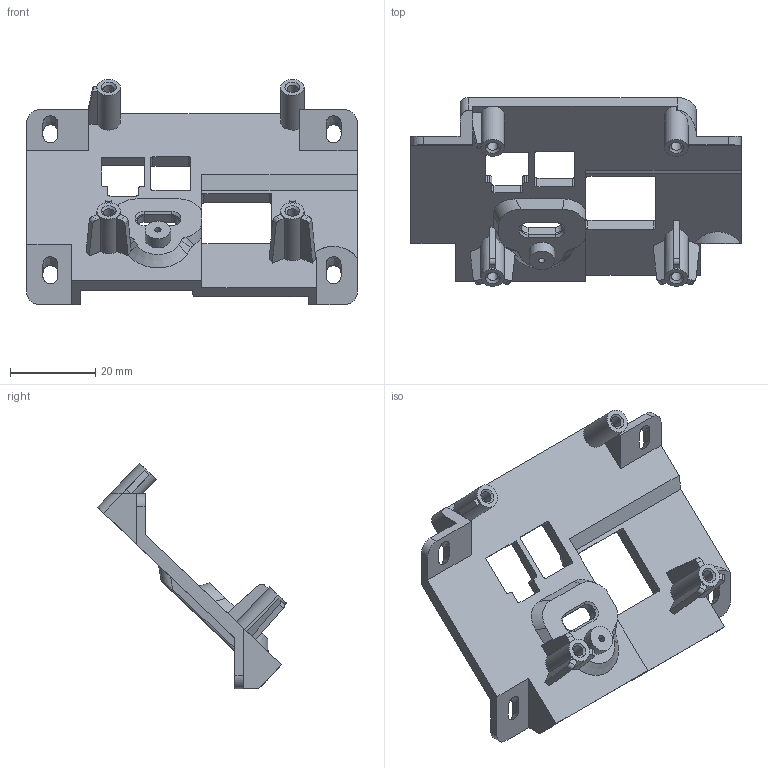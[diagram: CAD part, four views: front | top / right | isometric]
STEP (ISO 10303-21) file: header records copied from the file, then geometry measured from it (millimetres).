
FILE_DESCRIPTION((''),'2;1');
FILE_NAME('TOU-DYB-ZJ','2025-07-12T10:36:31',('Administrator'),(''),'CREO PARAMETRIC BY PTC INC, 2022073','CREO PARAMETRIC BY PTC INC, 2022073','');
FILE_SCHEMA(('CONFIG_CONTROL_DESIGN'));
Length unit declared in the file: millimetre
Products named in the file (1): TOU-DYB-ZJ
Bounding box: 77.37 x 44.21 x 52.79 mm (x, y, z)
Volume: 12920.9 mm3; surface area: 11246.3 mm2
Topology: 1 solids, 1 shells, 235 faces, 648 edges, 418 vertices
Faces by surface type: plane 121, cylinder 78, cone 16, bspline 9, extrusion 8, sphere 2, torus 1
Entity records: 8352 total; most frequent: CARTESIAN_POINT 2346, ORIENTED_EDGE 1292, DIRECTION 1173, EDGE_CURVE 646, VERTEX_POINT 418, VECTOR 415, LINE 407, AXIS2_PLACEMENT_3D 379
